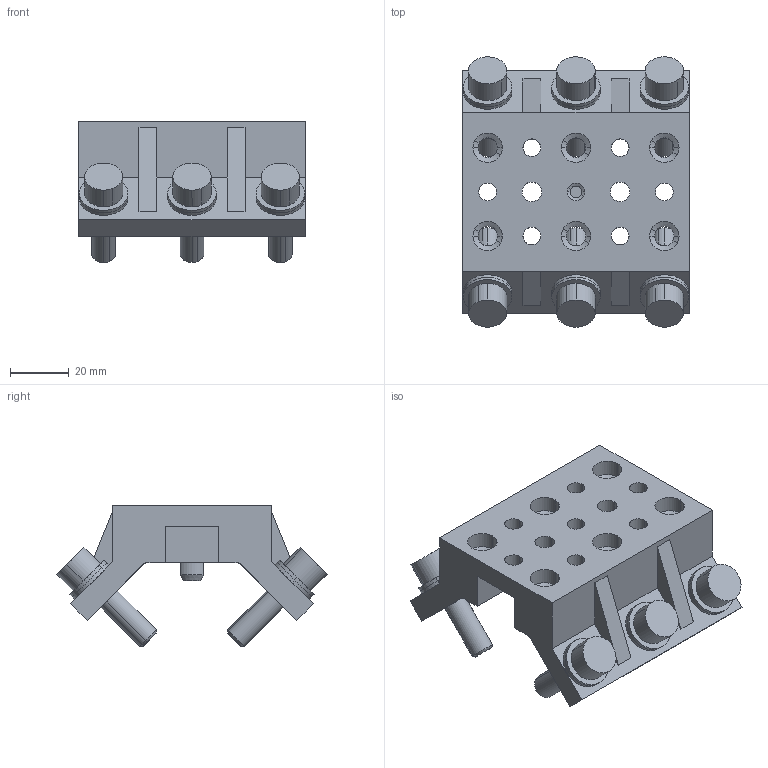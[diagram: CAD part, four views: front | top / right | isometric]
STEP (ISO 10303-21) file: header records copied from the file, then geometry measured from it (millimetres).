
FILE_DESCRIPTION(('STEP AP214'),'1');
FILE_NAME('EGT245_1723511_FLACHANB_SW80_KURZ.CATPart.stp','2015-09-14T13:15:25',('3D-Tool'),(' '),'Spatial InterOp 3D',' ',' ');
FILE_SCHEMA(('automotive_design'));
Length unit declared in the file: millimetre
Products named in the file (20): EGT245_1723511_FLACHANB_SW80_KURZ|EGT245_FLACHANB_SW80_KURZ|Bohrbearbeitung; EGT245_1723511_FLACHANB_SW80_KURZ|EGT212_ZENTRIERSTIFT|Solid.24; EGT245_1723511_FLACHANB_SW80_KURZ|ZYLINDERSCHRAUBE_DIN_EN_4762_M8X30.1|Solid.31; EGT245_1723511_FLACHANB_SW80_KURZ|ZYLINDERSCHRAUBE_DIN_EN_4762_M8X30.2|Solid.32; EGT245_1723511_FLACHANB_SW80_KURZ|ZYLINDERSCHRAUBE_DIN_EN_4762_M8X30.3|Solid.33; EGT245_1723511_FLACHANB_SW80_KURZ|ZYLINDERSCHRAUBE_DIN_EN_4762_M8X30.4|Solid.34; EGT245_1723511_FLACHANB_SW80_KURZ|ZYLINDERSCHRAUBE_DIN_EN_4762_M8X30.5|Solid.35; EGT245_1723511_FLACHANB_SW80_KURZ|ZYLINDERSCHRAUBE_DIN_EN_4762_M8X30.6|Solid.36; EGT245_1723511_FLACHANB_SW80_KURZ|SCHEIBE_DNL8F_FA_NORDLOCK.1|Solid.37; EGT245_1723511_FLACHANB_SW80_KURZ|SCHEIBE_DNL8F_FA_NORDLOCK.2|Solid.38; EGT245_1723511_FLACHANB_SW80_KURZ|SCHEIBE_DNL8F_FA_NORDLOCK.3|Solid.39; EGT245_1723511_FLACHANB_SW80_KURZ|SCHEIBE_DNL8F_FA_NORDLOCK.4|Solid.40; EGT245_1723511_FLACHANB_SW80_KURZ|SCHEIBE_DNL8F_FA_NORDLOCK.5|Solid.41; EGT245_1723511_FLACHANB_SW80_KURZ|SCHEIBE_DNL8F_FA_NORDLOCK.6|Solid.42; EGT245_1723511_FLACHANB_SW80_KURZ|SCHEIBE_DNL8F_FA_NORDLOCK.7|Solid.43; EGT245_1723511_FLACHANB_SW80_KURZ|SCHEIBE_DNL8F_FA_NORDLOCK.8|Solid.44; EGT245_1723511_FLACHANB_SW80_KURZ|SCHEIBE_DNL8F_FA_NORDLOCK.9|Solid.45; EGT245_1723511_FLACHANB_SW80_KURZ|SCHEIBE_DNL8F_FA_NORDLOCK.10|Solid.46; EGT245_1723511_FLACHANB_SW80_KURZ|SCHEIBE_DNL8F_FA_NORDLOCK.11|Solid.47; EGT245_1723511_FLACHANB_SW80_KURZ|SCHEIBE_DNL8F_FA_NORDLOCK.12|Solid.48
Bounding box: 77 x 91.78 x 47.86 mm (x, y, z)
Volume: 109155.7 mm3; surface area: 41419 mm2
Topology: 20 solids, 20 shells, 438 faces, 1046 edges, 646 vertices
Faces by surface type: cylinder 228, plane 84, cone 78, torus 48
Entity records: 17650 total; most frequent: CARTESIAN_POINT 3086, DIRECTION 2450, ORIENTED_EDGE 2092, EDGE_CURVE 1046, AXIS2_PLACEMENT_3D 1016, VERTEX_POINT 646, CIRCLE 558, EDGE_LOOP 502
